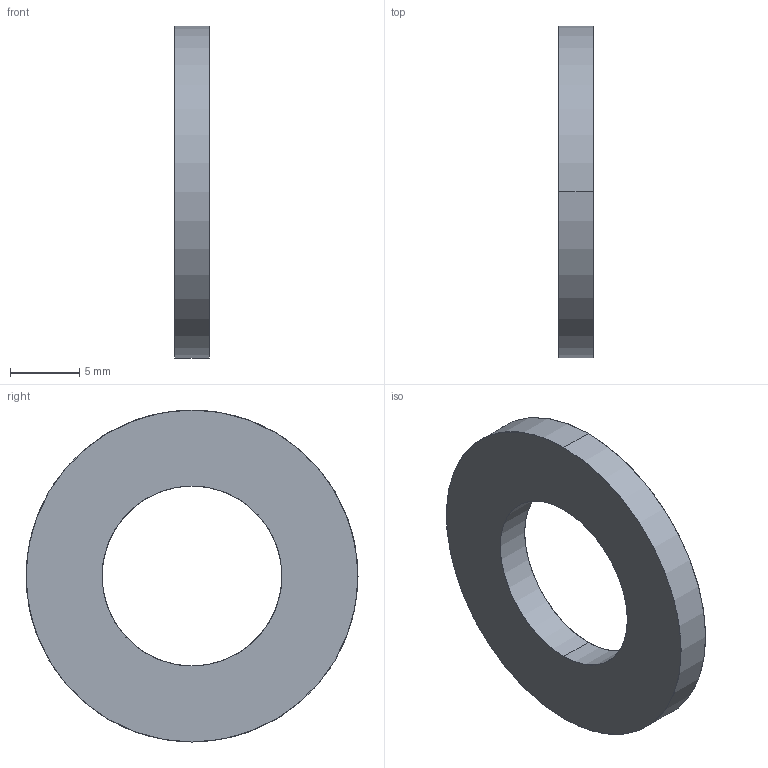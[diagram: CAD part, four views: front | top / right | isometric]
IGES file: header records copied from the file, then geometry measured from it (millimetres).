
Start section: START RECORD GO HERE.
Global section: file name: Rondelle_plate54.igs; native system: IBM CATIA IGES - CATIA Version 5 Release 18 ; preprocessor: CATIA Version 5 Release 18 ; author: Propriétaire; organization: FUJITSU-79916BB; date: 20090111.191531; units: millimetre
Bounding box: 2.5 x 24 x 24 mm (x, y, z)
Surface area: 929.9 mm2 (no closed solid volume)
Topology: 0 solids, 0 shells, 6 faces, 24 edges, 24 vertices
Faces by surface type: revolution 4, plane 2
